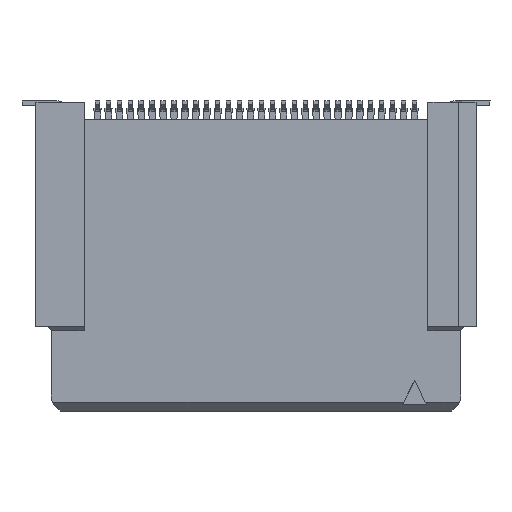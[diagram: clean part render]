
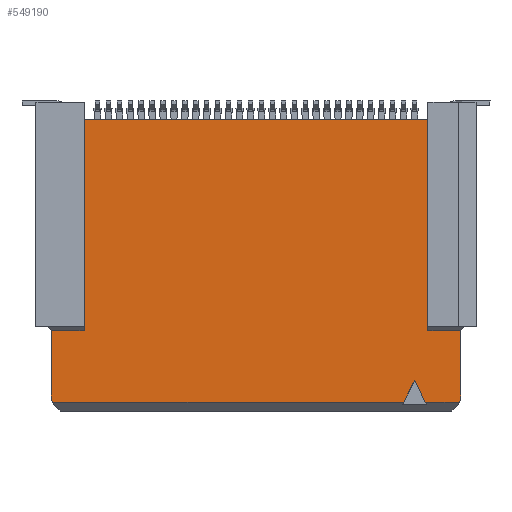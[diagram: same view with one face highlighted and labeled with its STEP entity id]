
A CAD part, front view. The second image highlights one B-rep face of the part: STEP entity #549190.
In plain terms, the highlighted planar face has unit normal (0, -1, 0) as drawn and (0, 1, 0) by its records, which use the part's own axes.
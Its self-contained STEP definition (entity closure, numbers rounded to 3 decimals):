
#39360=CARTESIAN_POINT('',(7.48,3.2,
-16.272));
#39370=VERTEX_POINT('',#39360);
#39520=CARTESIAN_POINT('',(6.48,3.2,
-15.772));
#39530=VERTEX_POINT('',#39520);
#39560=CARTESIAN_POINT('',(0.,3.2,-12.532));
#39570=DIRECTION('',(0.894,0.,
-0.447));
#39580=VECTOR('',#39570,1.);
#39590=LINE('',#39560,#39580);
#39600=EDGE_CURVE('',#39530,#39370,#39590,.T.);
#87460=CARTESIAN_POINT('',(7.48,3.2,
-17.822));
#87470=VERTEX_POINT('',#87460);
#87500=CARTESIAN_POINT('',(0.,3.2,
-20.814));
#87510=DIRECTION('',(0.928,0.,
0.371));
#87520=VECTOR('',#87510,1.);
#87530=LINE('',#87500,#87520);
#87540=CARTESIAN_POINT('',(7.33,3.2,
-17.882));
#87550=VERTEX_POINT('',#87540);
#87560=EDGE_CURVE('',#87550,#87470,#87530,.T.);
#90630=CARTESIAN_POINT('',(4.2,3.2,
-17.882));
#90640=VERTEX_POINT('',#90630);
#90670=CARTESIAN_POINT('',(4.2,3.2,
-17.132));
#90680=DIRECTION('',(0.,0.,-1.));
#90690=VECTOR('',#90680,1.);
#90700=LINE('',#90670,#90690);
#90710=CARTESIAN_POINT('',(4.2,3.2,
-16.382));
#90720=VERTEX_POINT('',#90710);
#90730=EDGE_CURVE('',#90720,#90640,#90700,.T.);
#118830=CARTESIAN_POINT('',(0.,3.2,-19.012));
#118840=DIRECTION('',(-0.894,0.,
-0.447));
#118850=VECTOR('',#118840,1.);
#118860=LINE('',#118830,#118850);
#118870=CARTESIAN_POINT('',(7.48,3.2,
-15.272));
#118880=VERTEX_POINT('',#118870);
#118890=EDGE_CURVE('',#118880,#39530,#118860,.T.);
#119580=CARTESIAN_POINT('',(7.88,3.2,
-17.882));
#119590=DIRECTION('',(-1.,0.,0.));
#119600=VECTOR('',#119590,1.);
#119610=LINE('',#119580,#119600);
#119620=EDGE_CURVE('',#87550,#90640,#119610,.T.);
#133900=CARTESIAN_POINT('',(0.,3.2,
-16.382));
#133910=DIRECTION('',(1.,0.,0.));
#133920=VECTOR('',#133910,1.);
#133930=LINE('',#133900,#133920);
#133940=CARTESIAN_POINT('',(-5.43,3.2,
-16.382));
#133950=VERTEX_POINT('',#133940);
#133960=EDGE_CURVE('',#133950,#90720,#133930,.T.);
#546340=CARTESIAN_POINT('',(7.33,3.2,
0.838));
#546350=VERTEX_POINT('',#546340);
#546430=CARTESIAN_POINT('',(4.2,3.2,
0.838));
#546440=VERTEX_POINT('',#546430);
#546470=CARTESIAN_POINT('',(7.88,3.2,
0.838));
#546480=DIRECTION('',(-1.,0.,0.));
#546490=VECTOR('',#546480,1.);
#546500=LINE('',#546470,#546490);
#546510=EDGE_CURVE('',#546350,#546440,#546500,.T.);
#548630=CARTESIAN_POINT('',(-0.57,3.2,
-8.691));
#548640=DIRECTION('',(0.,1.,0.));
#548650=DIRECTION('',(0.,0.,1.));
#548660=AXIS2_PLACEMENT_3D('',#548630,#548640,#548650);
#548670=PLANE('',#548660);
#548680=CARTESIAN_POINT('',(0.,3.2,
3.77));
#548690=DIRECTION('',(0.928,0.,
-0.371));
#548700=VECTOR('',#548690,1.);
#548710=LINE('',#548680,#548700);
#548720=CARTESIAN_POINT('',(7.48,3.2,
0.778));
#548730=VERTEX_POINT('',#548720);
#548740=EDGE_CURVE('',#546350,#548730,#548710,.T.);
#548750=ORIENTED_EDGE('',*,*,#548740,.T.);
#548760=ORIENTED_EDGE('',*,*,#546510,.F.);
#548770=CARTESIAN_POINT('',(4.2,3.2,
0.088));
#548780=DIRECTION('',(0.,0.,1.));
#548790=VECTOR('',#548780,1.);
#548800=LINE('',#548770,#548790);
#548810=CARTESIAN_POINT('',(4.2,3.2,
-0.662));
#548820=VERTEX_POINT('',#548810);
#548830=EDGE_CURVE('',#548820,#546440,#548800,.T.);
#548840=ORIENTED_EDGE('',*,*,#548830,.T.);
#548850=CARTESIAN_POINT('',(0.,3.2,
-0.662));
#548860=DIRECTION('',(1.,0.,0.));
#548870=VECTOR('',#548860,1.);
#548880=LINE('',#548850,#548870);
#548890=CARTESIAN_POINT('',(-5.43,3.2,
-0.662));
#548900=VERTEX_POINT('',#548890);
#548910=EDGE_CURVE('',#548900,#548820,#548880,.T.);
#548920=ORIENTED_EDGE('',*,*,#548910,.T.);
#548930=CARTESIAN_POINT('',(-5.43,3.2,
-9.545));
#548940=DIRECTION('',(0.,0.,-1.));
#548950=VECTOR('',#548940,1.);
#548960=LINE('',#548930,#548950);
#548970=EDGE_CURVE('',#548900,#133950,#548960,.T.);
#548980=ORIENTED_EDGE('',*,*,#548970,.F.);
#548990=ORIENTED_EDGE('',*,*,#133960,.F.);
#549000=ORIENTED_EDGE('',*,*,#90730,.F.);
#549010=ORIENTED_EDGE('',*,*,#119620,.T.);
#549020=ORIENTED_EDGE('',*,*,#87560,.F.);
#549030=CARTESIAN_POINT('',(7.48,3.2,
-0.092));
#549040=DIRECTION('',(0.,0.,1.));
#549050=VECTOR('',#549040,1.);
#549060=LINE('',#549030,#549050);
#549070=EDGE_CURVE('',#87470,#39370,#549060,.T.);
#549080=ORIENTED_EDGE('',*,*,#549070,.F.);
#549090=ORIENTED_EDGE('',*,*,#39600,.T.);
#549100=ORIENTED_EDGE('',*,*,#118890,.T.);
#549110=CARTESIAN_POINT('',(7.48,3.2,
-0.092));
#549120=DIRECTION('',(0.,0.,1.));
#549130=VECTOR('',#549120,1.);
#549140=LINE('',#549110,#549130);
#549150=EDGE_CURVE('',#118880,#548730,#549140,.T.);
#549160=ORIENTED_EDGE('',*,*,#549150,.F.);
#549170=EDGE_LOOP('',(#549160,#549100,#549090,#549080,#549020,#549010,
#549000,#548990,#548980,#548920,#548840,#548760,#548750));
#549180=FACE_OUTER_BOUND('',#549170,.T.);
#549190=ADVANCED_FACE('',(#549180),#548670,.T.);
